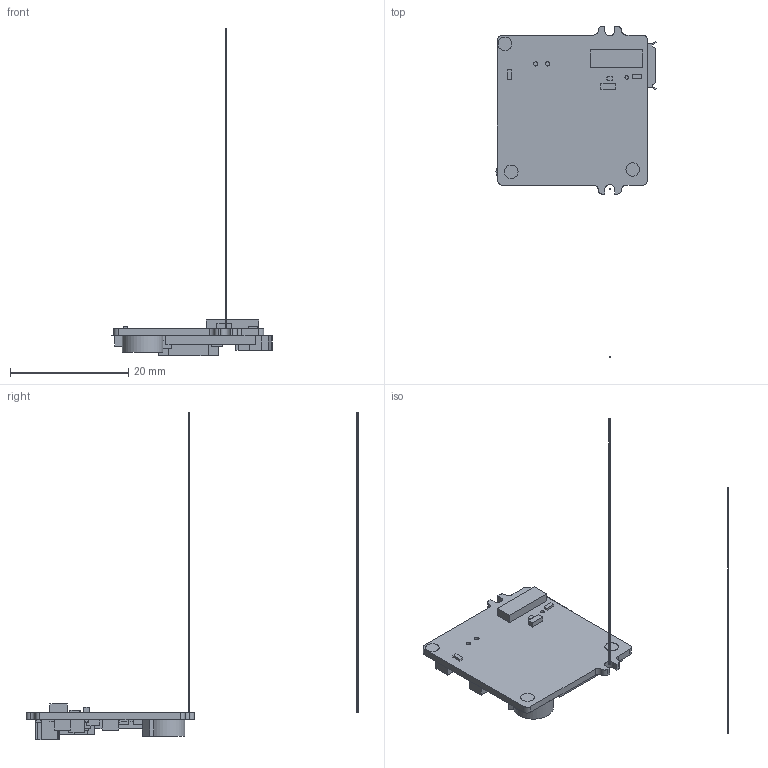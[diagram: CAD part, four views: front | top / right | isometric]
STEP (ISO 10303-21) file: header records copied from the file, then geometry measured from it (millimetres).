
FILE_DESCRIPTION(('FreeCAD Model'),'2;1');
FILE_NAME('D:/Working/MARIS/WILCOX_MEZZ/WILCOX_MEZZ.STP', '2016-02-15T13:41:48',('FreeCAD'),('FreeCAD'), 'Open CASCADE STEP processor 6.5','FreeCAD','Unknown');
FILE_SCHEMA(('AUTOMOTIVE_DESIGN_CC2 { 1 2 10303 214 -1 1 5 4 }'));
Length unit declared in the file: millimetre
Products named in the file (45): U27; C1064; R1069; C1060; C1061; J6; C1062; J44; FID4; C431; R1071; R1072; FID2; C1065; R1078; FB9; C1059; C1063; J4; R1070; C430; U542; U544; J5; C1066; R1075; FID3; R1077; NOREFDES; J43; R1073; C1089; Y4; FID6; B1; TVS2; R1068; R1074; L24; NOREFDES001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
Bounding box: 27.06 x 56.13 x 55.4 mm (x, y, z)
Volume: 1579.9 mm3; surface area: 2995 mm2
Topology: 45 solids, 45 shells, 335 faces, 735 edges, 490 vertices
Faces by surface type: plane 295, cylinder 40
Full cylindrical faces by diameter (mm): 0.61 x2, 0.711 x2
Entity records: 19586 total; most frequent: CARTESIAN_POINT 3295, DIRECTION 2913, LINE 2045, VECTOR 2045, ORIENTED_EDGE 1470, PCURVE 1470, DEFINITIONAL_REPRESENTATION 1470, EDGE_CURVE 735
